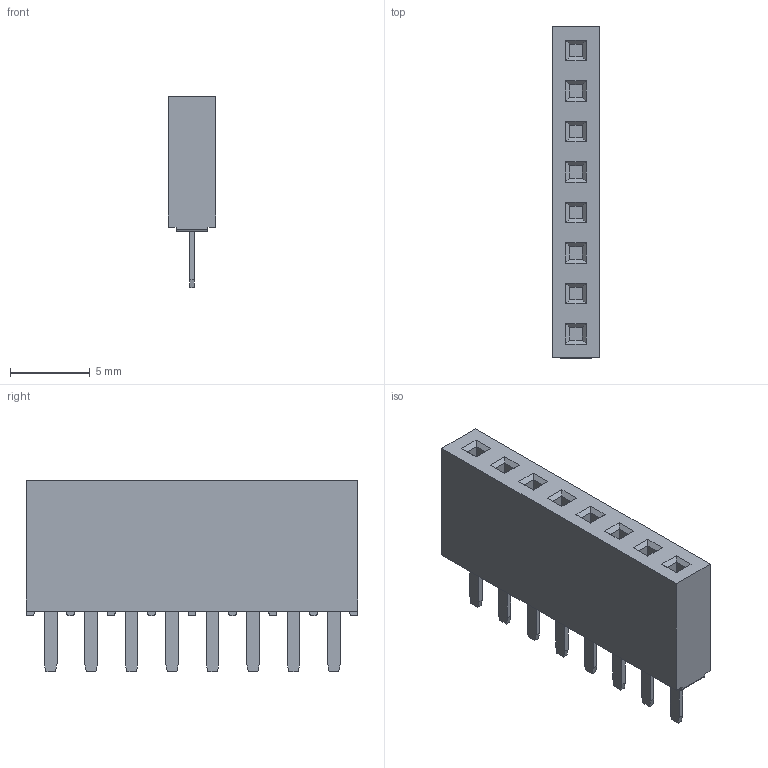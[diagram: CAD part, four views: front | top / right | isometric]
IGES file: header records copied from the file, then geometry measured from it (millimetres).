
Global section: file name: N:\GOLF_VI_2_54mm_UGII\960XXX-6X0X-XX (TS-2187)\960108-6303-XX.igs; native system: NX V3.0; preprocessor: UGS NX IGES V4.0; date: 20070618.075630; units: millimetre
Bounding box: 3 x 20.82 x 12 mm (x, y, z)
Surface area: 678.9 mm2 (no closed solid volume)
Topology: 0 solids, 0 shells, 195 faces, 956 edges, 956 vertices
Faces by surface type: bspline 195
